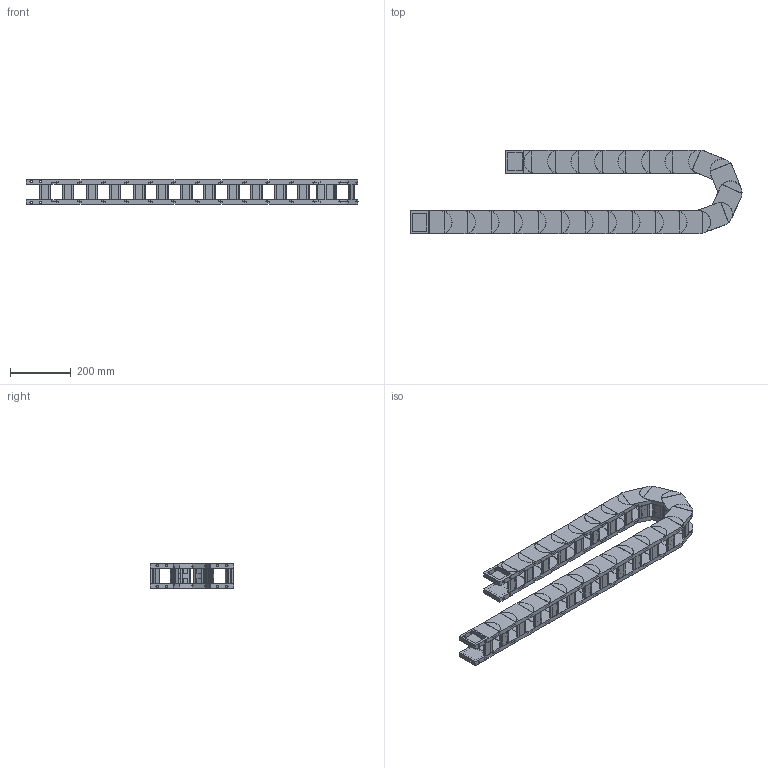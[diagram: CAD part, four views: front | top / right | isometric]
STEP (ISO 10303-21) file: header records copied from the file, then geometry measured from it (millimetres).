
FILE_DESCRIPTION((''),'2;1');
FILE_NAME('HD55-R100-ZPT_ASM','2022-06-17T17:18:12',('admin'),(''),'CREO PARAMETRIC BY PTC INC, 2021164','CREO PARAMETRIC BY PTC INC, 2021164','');
FILE_SCHEMA(('CONFIG_CONTROL_DESIGN','GEOMETRIC_VALIDATION_PROPERTIES_MIM'));
Length unit declared in the file: millimetre
Products named in the file (6): HD-55; 55-500001; HD55_ASM; H55-T1; H55-T2; HD55-R100-ZPT_ASM
Assembly tree (28 placements, depth 3):
  HD55-R100-ZPT_ASM
    HD55_ASM  x22
      HD-55
      55-500001
    H55-T1
    H55-T2
    55-500001  x2
Bounding box: 1094.64 x 275.91 x 82.2 mm (x, y, z)
Volume: 4938639 mm3; surface area: 1564297 mm2
Topology: 96 solids, 96 shells, 1598 faces, 4102 edges, 2796 vertices
Faces by surface type: plane 1316, cylinder 282
Entity records: 8764 total; most frequent: CARTESIAN_POINT 1292, DIRECTION 1254, ORIENTED_EDGE 1172, EDGE_CURVE 586, VECTOR 418, LINE 418, AXIS2_PLACEMENT_3D 418, VERTEX_POINT 396
